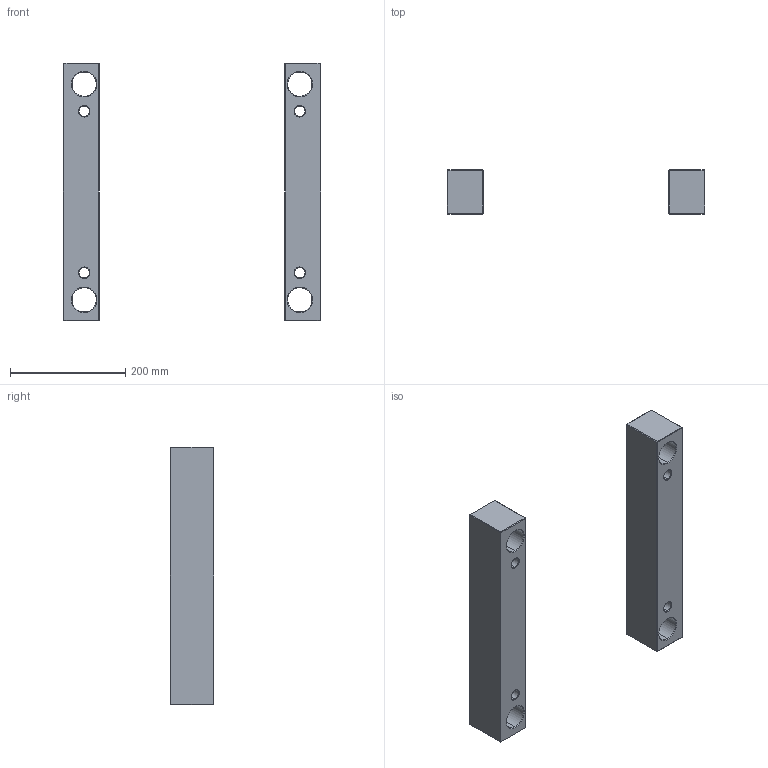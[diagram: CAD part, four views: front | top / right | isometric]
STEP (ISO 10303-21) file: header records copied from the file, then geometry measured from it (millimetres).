
FILE_DESCRIPTION (( 'STEP AP214' ), '1' );
FILE_NAME ('ESP-EU-446X446x76.STEP', '2020-04-16T11:48:49', ( 'August' ), ( '' ), 'SwSTEP 2.0', 'SolidWorks 2018', '' );
FILE_SCHEMA (( 'AUTOMOTIVE_DESIGN' ));
Length unit declared in the file: millimetre
Products named in the file (1): ESP-EU-446X446x76
Bounding box: 446 x 76 x 446 mm (x, y, z)
Volume: 3701474.9 mm3; surface area: 305618 mm2
Topology: 2 solids, 2 shells, 100 faces, 208 edges, 112 vertices
Faces by surface type: plane 52, cone 32, cylinder 16
Entity records: 2631 total; most frequent: DIRECTION 474, CARTESIAN_POINT 421, ORIENTED_EDGE 416, EDGE_CURVE 208, AXIS2_PLACEMENT_3D 165, VECTOR 144, LINE 144, EDGE_LOOP 116
